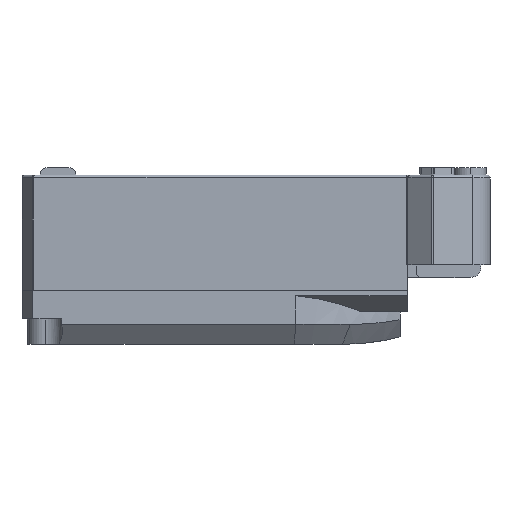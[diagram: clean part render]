
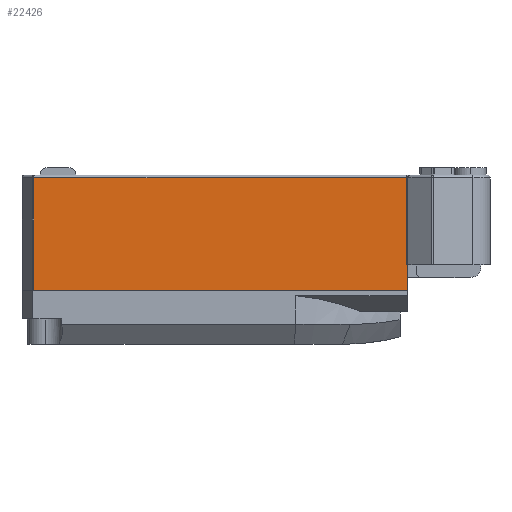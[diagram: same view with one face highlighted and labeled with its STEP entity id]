
A CAD part, left-side view. The second image highlights one B-rep face of the part: STEP entity #22426.
In plain terms, the highlighted planar face has unit normal (-1, 0, 0).
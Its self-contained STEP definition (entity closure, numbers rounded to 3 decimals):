
#499 = DIRECTION ( 'NONE',  ( 0., 1., 0. ) ) ;
#588 = DIRECTION ( 'NONE',  ( 0., -1., 0. ) ) ;
#1030 = VERTEX_POINT ( 'NONE', #24604 ) ;
#2267 = LINE ( 'NONE', #21396, #21965 ) ;
#2353 = ORIENTED_EDGE ( 'NONE', *, *, #5295, .T. ) ;
#2476 = CARTESIAN_POINT ( 'NONE',  ( 0., 0.218, 31.2 ) ) ;
#2888 = DIRECTION ( 'NONE',  ( 0., 1., 0. ) ) ;
#2898 = EDGE_CURVE ( 'NONE', #15659, #4507, #2267, .T. ) ;
#3029 = CARTESIAN_POINT ( 'NONE',  ( 0., 103.717, 0. ) ) ;
#3040 = VERTEX_POINT ( 'NONE', #3029 ) ;
#3383 = DIRECTION ( 'NONE',  ( 0., 0., -1. ) ) ;
#3952 = VECTOR ( 'NONE', #12189, 1000. ) ;
#4255 = VERTEX_POINT ( 'NONE', #5092 ) ;
#4467 = VECTOR ( 'NONE', #499, 1000. ) ;
#4507 = VERTEX_POINT ( 'NONE', #15346 ) ;
#5092 = CARTESIAN_POINT ( 'NONE',  ( 0., 0., 7. ) ) ;
#5295 = EDGE_CURVE ( 'NONE', #1030, #3040, #22176, .T. ) ;
#5787 = LINE ( 'NONE', #10376, #22230 ) ;
#7029 = VECTOR ( 'NONE', #3383, 1000. ) ;
#7356 = DIRECTION ( 'NONE',  ( 1., 0., 0. ) ) ;
#7521 = DIRECTION ( 'NONE',  ( 0., 1., 0. ) ) ;
#7744 = VECTOR ( 'NONE', #588, 1000. ) ;
#8244 = CARTESIAN_POINT ( 'NONE',  ( 0., 0., 0. ) ) ;
#8604 = CARTESIAN_POINT ( 'NONE',  ( 0., 103.717, 0. ) ) ;
#10133 = ORIENTED_EDGE ( 'NONE', *, *, #15211, .T. ) ;
#10376 = CARTESIAN_POINT ( 'NONE',  ( 0., 0., 7. ) ) ;
#11063 = CARTESIAN_POINT ( 'NONE',  ( 0., 0., 0. ) ) ;
#11071 = EDGE_CURVE ( 'NONE', #4255, #19558, #22865, .T. ) ;
#12189 = DIRECTION ( 'NONE',  ( 0., 0., -1. ) ) ;
#12379 = EDGE_LOOP ( 'NONE', ( #13384, #18518, #2353, #20821, #12560, #10133 ) ) ;
#12560 = ORIENTED_EDGE ( 'NONE', *, *, #11071, .F. ) ;
#13384 = ORIENTED_EDGE ( 'NONE', *, *, #2898, .F. ) ;
#14198 = AXIS2_PLACEMENT_3D ( 'NONE', #22718, #7356, #7521 ) ;
#14599 = LINE ( 'NONE', #15672, #4467 ) ;
#14790 = CARTESIAN_POINT ( 'NONE',  ( 0., 0., 32. ) ) ;
#15200 = LINE ( 'NONE', #8244, #7744 ) ;
#15211 = EDGE_CURVE ( 'NONE', #4255, #4507, #5787, .T. ) ;
#15346 = CARTESIAN_POINT ( 'NONE',  ( 0., 0.218, 7. ) ) ;
#15659 = VERTEX_POINT ( 'NONE', #2476 ) ;
#15672 = CARTESIAN_POINT ( 'NONE',  ( 0., 0., 31.2 ) ) ;
#17437 = FACE_OUTER_BOUND ( 'NONE', #12379, .T. ) ;
#18518 = ORIENTED_EDGE ( 'NONE', *, *, #18765, .T. ) ;
#18631 = PLANE ( 'NONE',  #14198 ) ;
#18759 = EDGE_CURVE ( 'NONE', #3040, #19558, #15200, .T. ) ;
#18765 = EDGE_CURVE ( 'NONE', #15659, #1030, #14599, .T. ) ;
#19558 = VERTEX_POINT ( 'NONE', #11063 ) ;
#20821 = ORIENTED_EDGE ( 'NONE', *, *, #18759, .T. ) ;
#21316 = DIRECTION ( 'NONE',  ( 0., 0., -1. ) ) ;
#21396 = CARTESIAN_POINT ( 'NONE',  ( 0., 0.218, 32.567 ) ) ;
#21965 = VECTOR ( 'NONE', #21316, 1000. ) ;
#22176 = LINE ( 'NONE', #8604, #3952 ) ;
#22230 = VECTOR ( 'NONE', #2888, 1000. ) ;
#22426 = ADVANCED_FACE ( 'NONE', ( #17437 ), #18631, .F. ) ;
#22718 = CARTESIAN_POINT ( 'NONE',  ( 0., 0., 32. ) ) ;
#22865 = LINE ( 'NONE', #14790, #7029 ) ;
#24604 = CARTESIAN_POINT ( 'NONE',  ( 0., 103.717, 31.2 ) ) ;
